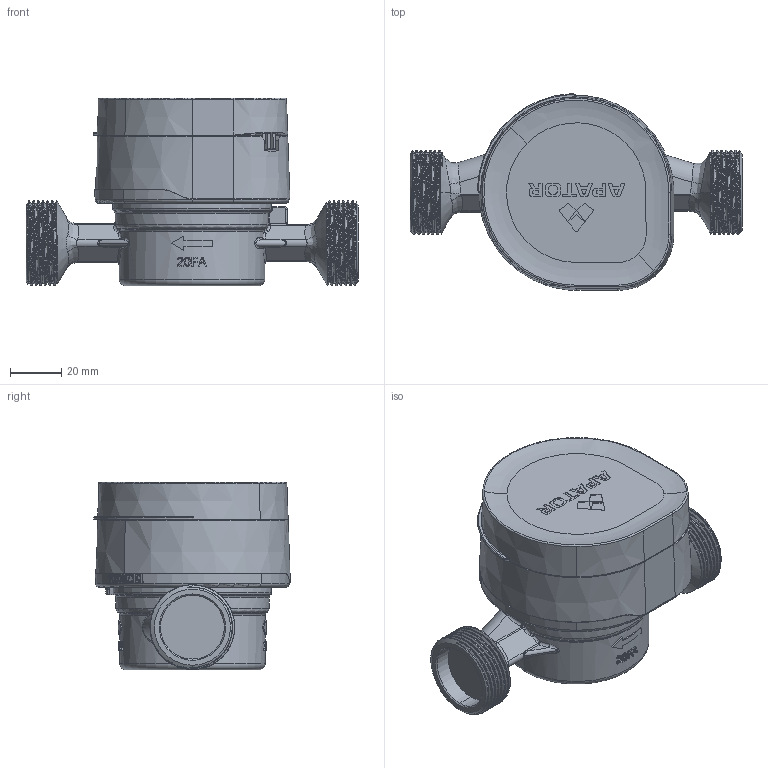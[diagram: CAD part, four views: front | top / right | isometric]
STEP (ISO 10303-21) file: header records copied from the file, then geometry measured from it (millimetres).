
FILE_DESCRIPTION (( 'STEP AP214' ), '1' );
FILE_NAME ('JS90-2,5-G1-05.STEP', '2025-05-23T07:27:29', ( '' ), ( '' ), 'SwSTEP 2.0', 'SolidWorks 2019', '' );
FILE_SCHEMA (( 'AUTOMOTIVE_DESIGN' ));
Length unit declared in the file: millimetre
Products named in the file (11): js2,5g1.STEP; 9004-750201.STEP; Part-3116.STEP; 9004-750202_zagi_ta.STEP; Assembly-1108.STEP; JS90-2,5-G1-05; Part-3118.STEP; Liczyd_o.STEP; JS90-2,5-G1-05.STEP; Part-3117.STEP; szklanka.STEP
Assembly tree (10 placements, depth 4):
  JS90-2,5-G1-05
    JS90-2,5-G1-05.STEP
      Assembly-1108.STEP
        9004-750201.STEP
        9004-750202_zagi_ta.STEP
      js2,5g1.STEP
      Liczyd_o.STEP
      Part-3118.STEP
      Part-3117.STEP
      Part-3116.STEP
      szklanka.STEP
Bounding box: 130 x 77.02 x 73.47 mm (x, y, z)
Volume: 255672.2 mm3; surface area: 100779.4 mm2
Topology: 9 solids, 18 shells, 2607 faces, 7167 edges, 4664 vertices
Faces by surface type: plane 1137, bspline 573, cylinder 511, cone 257, torus 105, sphere 24
Entity records: 146438 total; most frequent: CARTESIAN_POINT 79650, ORIENTED_EDGE 14286, DIRECTION 10471, EDGE_CURVE 7143, VERTEX_POINT 4661, AXIS2_PLACEMENT_3D 3789, LINE 2893, VECTOR 2893
